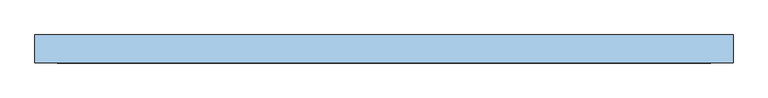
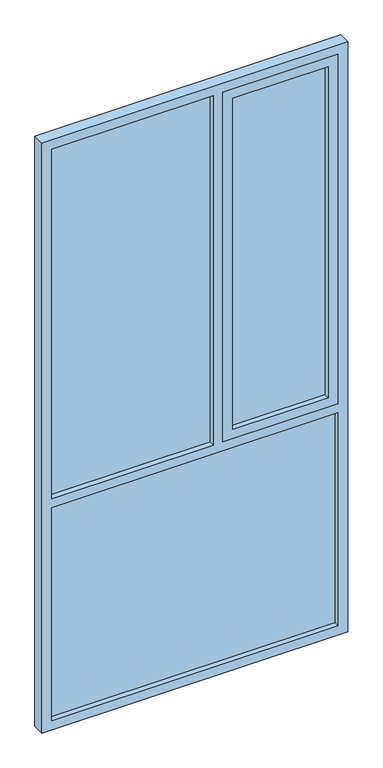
"""IFC4 building model written with IfcOpenShell, lengths in millimetres: window geometry, VENT_ALUM_PROY_ARRIBA_ABAJO FIJO COMPLETO : VD-4/ PROYECC RECAM 1.3 X 2.55."""

from ifc_helpers import new_model, si_unit, frame, origin, place, context, project, spatial, polyline, outline, extrude, source, transform, mapped, element, save


def window_51f4b89f(model_context):
    return source(origin(), model_context, "Body", "SweptSolid", [
        extrude(outline(polyline([(1500.0, 115.0), (1500.0, 585.0), (3010.0, 585.0), (3010.0, 115.0), (1500.0, 115.0)]), holes=[polyline([(2970.0, 155.0), (2970.0, 545.0), (1540.0, 545.0), (1540.0, 155.0), (2970.0, 155.0)])]), frame((0.0, -25.0, 0.0), z_axis=(0.0, 1.0, 0.0), x_axis=(0.0, 0.0, 1.0)), (0.0, 0.0, 1.0), 50.0),
        extrude(outline(polyline([(3050.0, -625.0), (500.0, -625.0), (500.0, 625.0), (3050.0, 625.0), (3050.0, -625.0)]), holes=[polyline([(3010.0, 585.0), (1500.0, 585.0), (1500.0, 115.0), (3010.0, 115.0), (3010.0, 585.0)]), polyline([(3010.0, -585.0), (3010.0, 75.0), (1500.0, 75.0), (1500.0, -585.0), (3010.0, -585.0)]), polyline([(1460.0, -585.0), (1460.0, 585.0), (540.0, 585.0), (540.0, -585.0), (1460.0, -585.0)])]), frame((0.0, -25.0, 0.0), z_axis=(0.0, 1.0, 0.0), x_axis=(0.0, 0.0, 1.0)), (0.0, 0.0, 1.0), 50.0),
        extrude(outline(polyline([(545.0, -3.0), (155.0, -3.0), (155.0, 3.0), (545.0, 3.0), (545.0, -3.0)])), frame((0.0, 0.0, 1540.0), z_axis=(0.0, 0.0, 1.0), x_axis=(1.0, 0.0, 0.0)), (0.0, 0.0, 1.0), 1430.0),
        extrude(outline(polyline([(585.0, -3.0), (-585.0, -3.0), (-585.0, 3.0), (585.0, 3.0), (585.0, -3.0)])), frame((0.0, 0.0, 540.0), z_axis=(0.0, 0.0, 1.0), x_axis=(1.0, 0.0, 0.0)), (0.0, 0.0, 1.0), 920.0),
        extrude(outline(polyline([(75.0, -3.0), (-585.0, -3.0), (-585.0, 3.0), (75.0, 3.0), (75.0, -3.0)])), frame((0.0, 0.0, 1500.0), z_axis=(0.0, 0.0, 1.0), x_axis=(1.0, 0.0, 0.0)), (0.0, 0.0, 1.0), 1510.0),
    ])


if __name__ == "__main__":
    model = new_model("IFC4")
    model_context = context("Model", 3, world=origin())
    ifc_project = project(units=[si_unit("LENGTHUNIT", "METRE", prefix="MILLI")], contexts=[model_context])
    site = spatial("IfcSite", under=ifc_project)
    building = spatial("IfcBuilding", under=site)
    placement = place(None, origin())
    window_shape = window_51f4b89f(model_context)
    element("IfcWindow", 1, ObjectType="VENT_ALUM_PROY_ARRIBA_ABAJO FIJO COMPLETO : VD-4/ PROYECC RECAM 1.3 X 2.55", at=placement, inside=building, context=model_context, shape_type="MappedRepresentation", body=[
        mapped(window_shape, transform((0.0, 0.0, 0.0), x_axis=(1.0, 0.0, 0.0), y_axis=(0.0, 1.0, 0.0), z_axis=(0.0, 0.0, 1.0))),
    ])
    save(model, "model.ifc")
